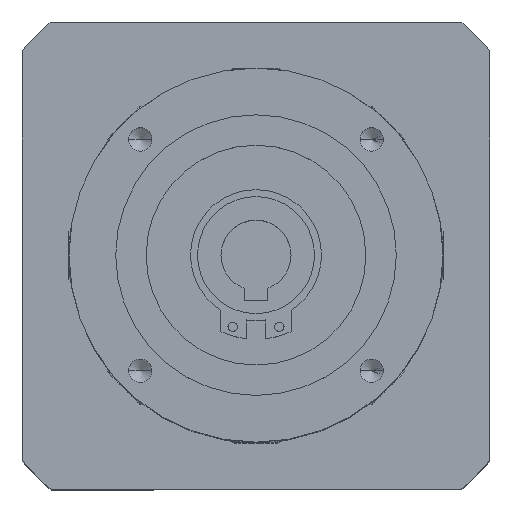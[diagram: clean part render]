
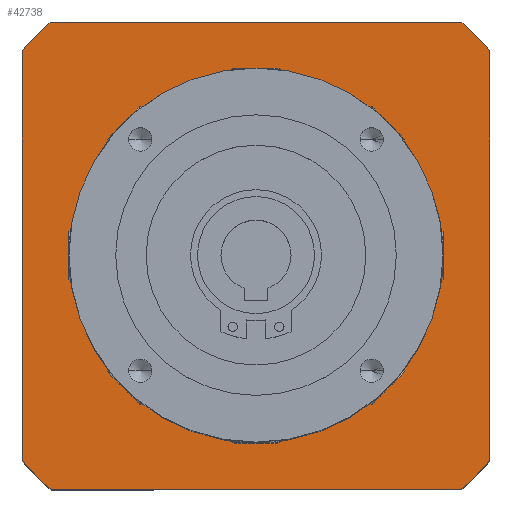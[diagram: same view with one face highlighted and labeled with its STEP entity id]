
A CAD part, top view. The second image highlights one B-rep face of the part: STEP entity #42738.
In plain terms, the highlighted planar face has unit normal (0, 0, 1).
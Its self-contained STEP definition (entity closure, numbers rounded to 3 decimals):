
#564 = CARTESIAN_POINT ( 'NONE',  ( -50., 36., -12. ) ) ;
#1013 = FACE_BOUND ( 'NONE', #6400, .T. ) ;
#1572 = ORIENTED_EDGE ( 'NONE', *, *, #3396, .F. ) ;
#2038 = DIRECTION ( 'NONE',  ( 0., 0., -1. ) ) ;
#2671 = CARTESIAN_POINT ( 'NONE',  ( 50., 43.843, -12. ) ) ;
#3396 = EDGE_CURVE ( 'NONE', #41486, #16643, #42888, .T. ) ;
#4037 = EDGE_CURVE ( 'NONE', #42336, #26700, #36684, .T. ) ;
#4407 = DIRECTION ( 'NONE',  ( 1., 0., 0. ) ) ;
#4414 = DIRECTION ( 'NONE',  ( 0., 0., 1. ) ) ;
#4467 = CARTESIAN_POINT ( 'NONE',  ( 0., 0., -12. ) ) ;
#5376 = EDGE_LOOP ( 'NONE', ( #44646, #38980, #34975, #17721, #32613, #20634, #1572, #42274 ) ) ;
#5491 = VERTEX_POINT ( 'NONE', #6973 ) ;
#5518 = CARTESIAN_POINT ( 'NONE',  ( 0., -50., -12. ) ) ;
#5762 = DIRECTION ( 'NONE',  ( 1., 0., 0. ) ) ;
#6400 = EDGE_LOOP ( 'NONE', ( #27772, #17557 ) ) ;
#6514 = CARTESIAN_POINT ( 'NONE',  ( 0., 36., -12. ) ) ;
#6973 = CARTESIAN_POINT ( 'NONE',  ( -43.843, -50., -12. ) ) ;
#8132 = CARTESIAN_POINT ( 'NONE',  ( 0., 0., -12. ) ) ;
#9312 = VECTOR ( 'NONE', #30836, 1000. ) ;
#9384 = CIRCLE ( 'NONE', #24326, 66.5 ) ;
#9653 = VERTEX_POINT ( 'NONE', #14500 ) ;
#9969 = CARTESIAN_POINT ( 'NONE',  ( 0., 0., -12. ) ) ;
#10274 = AXIS2_PLACEMENT_3D ( 'NONE', #6514, #31967, #10361 ) ;
#10361 = DIRECTION ( 'NONE',  ( -1., 0., 0. ) ) ;
#10573 = CARTESIAN_POINT ( 'NONE',  ( -50., -43.843, -12. ) ) ;
#11166 = DIRECTION ( 'NONE',  ( 0., 0., -1. ) ) ;
#11683 = CARTESIAN_POINT ( 'NONE',  ( 43.843, 50., -12. ) ) ;
#11798 = DIRECTION ( 'NONE',  ( 1., 0., 0. ) ) ;
#12567 = EDGE_CURVE ( 'NONE', #9653, #26961, #34497, .T. ) ;
#12944 = CARTESIAN_POINT ( 'NONE',  ( 0., 50., -12. ) ) ;
#13218 = VERTEX_POINT ( 'NONE', #11683 ) ;
#13631 = DIRECTION ( 'NONE',  ( 1., 0., 0. ) ) ;
#14102 = AXIS2_PLACEMENT_3D ( 'NONE', #9969, #35193, #13631 ) ;
#14373 = VECTOR ( 'NONE', #25445, 1000. ) ;
#14446 = VERTEX_POINT ( 'NONE', #10573 ) ;
#14500 = CARTESIAN_POINT ( 'NONE',  ( -50., 43.843, -12. ) ) ;
#16643 = VERTEX_POINT ( 'NONE', #18405 ) ;
#17557 = ORIENTED_EDGE ( 'NONE', *, *, #32843, .F. ) ;
#17670 = AXIS2_PLACEMENT_3D ( 'NONE', #4467, #4414, #4407 ) ;
#17720 = CARTESIAN_POINT ( 'NONE',  ( -43.843, 50., -12. ) ) ;
#17721 = ORIENTED_EDGE ( 'NONE', *, *, #35323, .F. ) ;
#18012 = CARTESIAN_POINT ( 'NONE',  ( 50., 36., -12. ) ) ;
#18405 = CARTESIAN_POINT ( 'NONE',  ( 43.843, -50., -12. ) ) ;
#19483 = AXIS2_PLACEMENT_3D ( 'NONE', #20354, #20297, #20249 ) ;
#20249 = DIRECTION ( 'NONE',  ( 1., 0., 0. ) ) ;
#20297 = DIRECTION ( 'NONE',  ( 0., 0., -1. ) ) ;
#20354 = CARTESIAN_POINT ( 'NONE',  ( 0., 0., -12. ) ) ;
#20634 = ORIENTED_EDGE ( 'NONE', *, *, #26803, .F. ) ;
#20686 = VECTOR ( 'NONE', #33284, 1000. ) ;
#21094 = PLANE ( 'NONE',  #10274 ) ;
#23099 = CARTESIAN_POINT ( 'NONE',  ( -36., 0., -12. ) ) ;
#23773 = CARTESIAN_POINT ( 'NONE',  ( 0., 0., -12. ) ) ;
#24326 = AXIS2_PLACEMENT_3D ( 'NONE', #23773, #2038, #27451 ) ;
#24810 = EDGE_CURVE ( 'NONE', #5491, #14446, #9384, .T. ) ;
#25445 = DIRECTION ( 'NONE',  ( 0., -1., 0. ) ) ;
#26700 = VERTEX_POINT ( 'NONE', #23099 ) ;
#26803 = EDGE_CURVE ( 'NONE', #16643, #5491, #28567, .T. ) ;
#26961 = VERTEX_POINT ( 'NONE', #17720 ) ;
#27451 = DIRECTION ( 'NONE',  ( 1., 0., 0. ) ) ;
#27655 = EDGE_CURVE ( 'NONE', #39974, #41486, #33514, .T. ) ;
#27772 = ORIENTED_EDGE ( 'NONE', *, *, #4037, .F. ) ;
#28267 = EDGE_CURVE ( 'NONE', #13218, #39974, #44158, .T. ) ;
#28567 = LINE ( 'NONE', #5518, #9312 ) ;
#28814 = FACE_OUTER_BOUND ( 'NONE', #5376, .T. ) ;
#30172 = AXIS2_PLACEMENT_3D ( 'NONE', #8132, #33359, #11798 ) ;
#30324 = LINE ( 'NONE', #564, #20686 ) ;
#30836 = DIRECTION ( 'NONE',  ( -1., 0., 0. ) ) ;
#31967 = DIRECTION ( 'NONE',  ( 0., 0., -1. ) ) ;
#32613 = ORIENTED_EDGE ( 'NONE', *, *, #24810, .F. ) ;
#32726 = CARTESIAN_POINT ( 'NONE',  ( 0., 0., -12. ) ) ;
#32843 = EDGE_CURVE ( 'NONE', #26700, #42336, #34286, .T. ) ;
#33284 = DIRECTION ( 'NONE',  ( 0., 1., 0. ) ) ;
#33359 = DIRECTION ( 'NONE',  ( 0., 0., 1. ) ) ;
#33514 = LINE ( 'NONE', #18012, #14373 ) ;
#34286 = CIRCLE ( 'NONE', #30172, 36. ) ;
#34497 = CIRCLE ( 'NONE', #14102, 66.5 ) ;
#34975 = ORIENTED_EDGE ( 'NONE', *, *, #12567, .F. ) ;
#35193 = DIRECTION ( 'NONE',  ( 0., 0., -1. ) ) ;
#35323 = EDGE_CURVE ( 'NONE', #14446, #9653, #30324, .T. ) ;
#36369 = DIRECTION ( 'NONE',  ( 1., 0., 0. ) ) ;
#36684 = CIRCLE ( 'NONE', #17670, 36. ) ;
#37833 = EDGE_CURVE ( 'NONE', #26961, #13218, #45285, .T. ) ;
#38980 = ORIENTED_EDGE ( 'NONE', *, *, #37833, .F. ) ;
#39345 = CARTESIAN_POINT ( 'NONE',  ( 50., -43.843, -12. ) ) ;
#39580 = AXIS2_PLACEMENT_3D ( 'NONE', #32726, #11166, #36369 ) ;
#39974 = VERTEX_POINT ( 'NONE', #2671 ) ;
#41486 = VERTEX_POINT ( 'NONE', #39345 ) ;
#42274 = ORIENTED_EDGE ( 'NONE', *, *, #27655, .F. ) ;
#42336 = VERTEX_POINT ( 'NONE', #43766 ) ;
#42738 = ADVANCED_FACE ( 'NONE', ( #28814, #1013 ), #21094, .F. ) ;
#42888 = CIRCLE ( 'NONE', #19483, 66.5 ) ;
#43766 = CARTESIAN_POINT ( 'NONE',  ( 36., 0., -12. ) ) ;
#44158 = CIRCLE ( 'NONE', #39580, 66.5 ) ;
#44174 = VECTOR ( 'NONE', #5762, 1000. ) ;
#44646 = ORIENTED_EDGE ( 'NONE', *, *, #28267, .F. ) ;
#45285 = LINE ( 'NONE', #12944, #44174 ) ;
